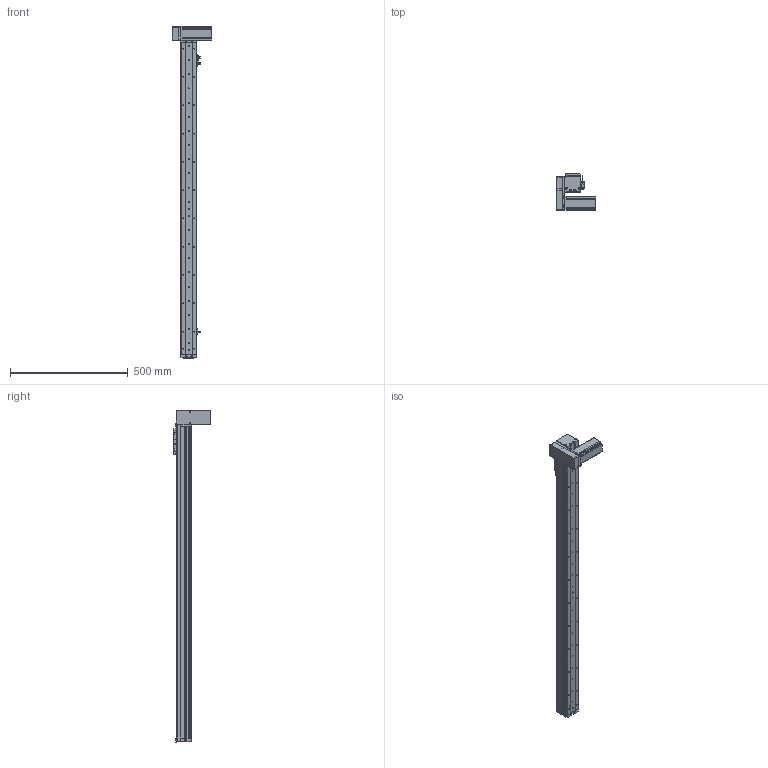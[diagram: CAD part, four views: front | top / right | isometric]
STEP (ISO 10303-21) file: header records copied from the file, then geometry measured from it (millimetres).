
FILE_DESCRIPTION (( 'STEP AP214' ), '1' );
FILE_NAME ('KSD68BS-S1150-MRD-CR.STEP', '2019-11-08T03:20:19', ( '微软用户' ), ( '微软中国' ), 'SwSTEP 2.0', 'SolidWorks 2014', '' );
FILE_SCHEMA (( 'AUTOMOTIVE_DESIGN' ));
Length unit declared in the file: millimetre
Products named in the file (14): KSD68BS 1150行程底板全封闭; KSD68BS-S1150-MRD-CR; KSD68BS 1150行程盖板全封闭; 68遵裔啣揤啣1; 68宽单导轨全封闭丝杆传动安装板1防护罩; KSD68BS 1150行程侧板全封闭; 68宽单导轨全封闭同步带端板; 68单导轨全封闭同步带电机座右; 68单导轨全封闭同步带安装板; 悵誘欶奻狟殏; 68宽马达安装板连板上折同步带; 感应片68宽全封闭; U倰嫖萇EEㄜSX672; 台达ECMA－C20604AS伺服电机（400W)
Assembly tree (17 placements, depth 2):
  KSD68BS-S1150-MRD-CR
    KSD68BS 1150行程底板全封闭
    台达ECMA－C20604AS伺服电机（400W)
    U倰嫖萇EEㄜSX672  x3
    感应片68宽全封闭
    68宽马达安装板连板上折同步带
    悵誘欶奻狟殏
    68单导轨全封闭同步带安装板
    68单导轨全封闭同步带电机座右
    68宽单导轨全封闭同步带端板
    KSD68BS 1150行程侧板全封闭  x2
    68宽单导轨全封闭丝杆传动安装板1防护罩
    68遵裔啣揤啣1  x2
    KSD68BS 1150行程盖板全封闭
Bounding box: 167.2 x 155.5 x 1408.1 mm (x, y, z)
Volume: 2738763.9 mm3; surface area: 1067899.1 mm2
Topology: 18 solids, 18 shells, 1556 faces, 4449 edges, 2839 vertices
Faces by surface type: cylinder 749, plane 631, cone 176
Entity records: 49858 total; most frequent: CARTESIAN_POINT 8581, DIRECTION 7453, ORIENTED_EDGE 7126, EDGE_CURVE 3563, AXIS2_PLACEMENT_3D 2701, VERTEX_POINT 2337, LINE 2051, VECTOR 2051
